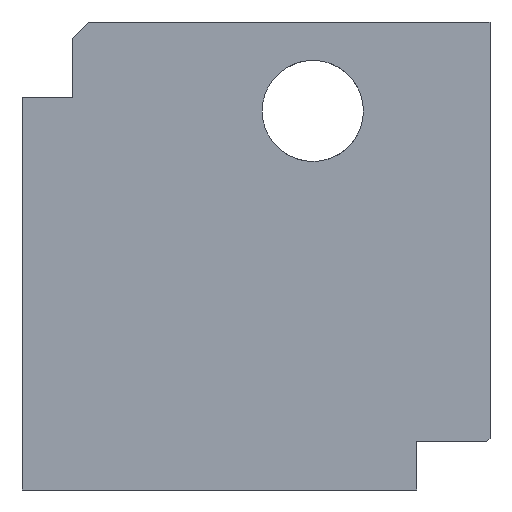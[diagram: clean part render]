
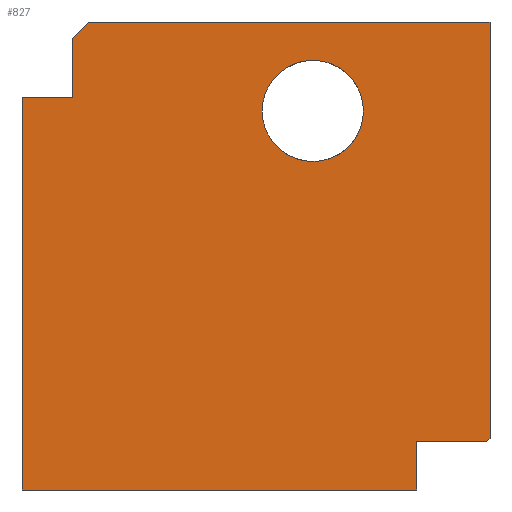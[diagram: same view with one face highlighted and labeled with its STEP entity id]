
A CAD part, front view. The second image highlights one B-rep face of the part: STEP entity #827.
In plain terms, the highlighted planar face has unit normal (0, -1, 0).
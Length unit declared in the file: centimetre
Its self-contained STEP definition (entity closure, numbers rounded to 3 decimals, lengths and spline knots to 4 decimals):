
#7 = LINE ( 'NONE', #1971, #2000 ) ;
#76 = FACE_OUTER_BOUND ( 'NONE', #824, .T. ) ;
#85 = ORIENTED_EDGE ( 'NONE', *, *, #954, .T. ) ;
#113 = EDGE_CURVE ( 'NONE', #444, #2091, #1330, .T. ) ;
#132 = CARTESIAN_POINT ( 'NONE',  ( 621.451, 0., 918.0628 ) ) ;
#166 = EDGE_CURVE ( 'NONE', #1153, #1976, #7, .T. ) ;
#178 = ORIENTED_EDGE ( 'NONE', *, *, #166, .T. ) ;
#215 = CARTESIAN_POINT ( 'NONE',  ( 843.6956, 0., 0. ) ) ;
#217 = CARTESIAN_POINT ( 'NONE',  ( 0., 0., 0. ) ) ;
#227 = VERTEX_POINT ( 'NONE', #343 ) ;
#229 = LINE ( 'NONE', #2168, #1463 ) ;
#244 = CARTESIAN_POINT ( 'NONE',  ( 107.7359, 0., 838.4858 ) ) ;
#254 = ORIENTED_EDGE ( 'NONE', *, *, #1181, .F. ) ;
#343 = CARTESIAN_POINT ( 'NONE',  ( 142.2832, 0., 1000. ) ) ;
#416 = CARTESIAN_POINT ( 'NONE',  ( 1000., 0., 1000. ) ) ;
#433 = ORIENTED_EDGE ( 'NONE', *, *, #1530, .T. ) ;
#442 = EDGE_CURVE ( 'NONE', #1644, #976, #2183, .T. ) ;
#444 = VERTEX_POINT ( 'NONE', #217 ) ;
#452 = FACE_BOUND ( 'NONE', #584, .T. ) ;
#481 = EDGE_CURVE ( 'NONE', #2211, #1419, #1696, .T. ) ;
#500 = VECTOR ( 'NONE', #1685, 100. ) ;
#503 = AXIS2_PLACEMENT_3D ( 'NONE', #2214, #1279, #567 ) ;
#554 = LINE ( 'NONE', #1266, #1501 ) ;
#567 = DIRECTION ( 'NONE',  ( 0., 0., -1. ) ) ;
#572 = ORIENTED_EDGE ( 'NONE', *, *, #442, .T. ) ;
#584 = EDGE_LOOP ( 'NONE', ( #1139, #1989 ) ) ;
#591 = DIRECTION ( 'NONE',  ( 0., -1., 0. ) ) ;
#598 = CARTESIAN_POINT ( 'NONE',  ( 993.4973, 0., 102.7327 ) ) ;
#647 = EDGE_CURVE ( 'NONE', #1419, #2211, #1993, .T. ) ;
#651 = EDGE_CURVE ( 'NONE', #976, #444, #959, .T. ) ;
#739 = CARTESIAN_POINT ( 'NONE',  ( 621.451, 0., 809.9227 ) ) ;
#745 = VERTEX_POINT ( 'NONE', #1150 ) ;
#747 = LINE ( 'NONE', #1275, #1916 ) ;
#762 = VECTOR ( 'NONE', #1880, 100. ) ;
#824 = EDGE_LOOP ( 'NONE', ( #1356, #572, #2051, #1343, #433, #85, #178, #254, #1686, #1585 ) ) ;
#827 = ADVANCED_FACE ( 'NONE', ( #452, #76 ), #1697, .F. ) ;
#858 = CARTESIAN_POINT ( 'NONE',  ( 142.2832, 0., 1000. ) ) ;
#874 = VECTOR ( 'NONE', #2246, 100. ) ;
#931 = CARTESIAN_POINT ( 'NONE',  ( 0., 0., 1000. ) ) ;
#940 = DIRECTION ( 'NONE',  ( 1., 0., 0. ) ) ;
#948 = AXIS2_PLACEMENT_3D ( 'NONE', #1342, #1186, #1849 ) ;
#954 = EDGE_CURVE ( 'NONE', #1607, #1153, #1506, .T. ) ;
#959 = LINE ( 'NONE', #931, #500 ) ;
#976 = VERTEX_POINT ( 'NONE', #2068 ) ;
#982 = CARTESIAN_POINT ( 'NONE',  ( 0., 0., 0. ) ) ;
#1028 = VECTOR ( 'NONE', #2078, 100. ) ;
#1103 = CARTESIAN_POINT ( 'NONE',  ( 621.451, 0., 701.7825 ) ) ;
#1124 = VERTEX_POINT ( 'NONE', #416 ) ;
#1139 = ORIENTED_EDGE ( 'NONE', *, *, #481, .F. ) ;
#1150 = CARTESIAN_POINT ( 'NONE',  ( 107.7359, 0., 965.4527 ) ) ;
#1153 = VERTEX_POINT ( 'NONE', #598 ) ;
#1156 = EDGE_CURVE ( 'NONE', #227, #1124, #747, .T. ) ;
#1168 = EDGE_CURVE ( 'NONE', #745, #1644, #229, .T. ) ;
#1181 = EDGE_CURVE ( 'NONE', #1124, #1976, #1994, .T. ) ;
#1186 = DIRECTION ( 'NONE',  ( 0., 1., 0. ) ) ;
#1232 = EDGE_CURVE ( 'NONE', #227, #745, #1558, .T. ) ;
#1264 = DIRECTION ( 'NONE',  ( -1., 0., 0. ) ) ;
#1266 = CARTESIAN_POINT ( 'NONE',  ( 843.6956, 0., 0. ) ) ;
#1275 = CARTESIAN_POINT ( 'NONE',  ( 0., 0., 1000. ) ) ;
#1279 = DIRECTION ( 'NONE',  ( 0., -1., 0. ) ) ;
#1304 = DIRECTION ( 'NONE',  ( 0., 0., -1. ) ) ;
#1330 = LINE ( 'NONE', #982, #762 ) ;
#1342 = CARTESIAN_POINT ( 'NONE',  ( 0., 0., 1000. ) ) ;
#1343 = ORIENTED_EDGE ( 'NONE', *, *, #113, .T. ) ;
#1356 = ORIENTED_EDGE ( 'NONE', *, *, #1168, .T. ) ;
#1390 = CARTESIAN_POINT ( 'NONE',  ( 1000., 0., 109.2354 ) ) ;
#1393 = VECTOR ( 'NONE', #1264, 100. ) ;
#1419 = VERTEX_POINT ( 'NONE', #132 ) ;
#1434 = CARTESIAN_POINT ( 'NONE',  ( 0., 0., 838.4858 ) ) ;
#1457 = CARTESIAN_POINT ( 'NONE',  ( 1000., 0., 1000. ) ) ;
#1463 = VECTOR ( 'NONE', #1470, 100. ) ;
#1470 = DIRECTION ( 'NONE',  ( 0., 0., -1. ) ) ;
#1501 = VECTOR ( 'NONE', #1984, 100. ) ;
#1506 = LINE ( 'NONE', #1874, #874 ) ;
#1530 = EDGE_CURVE ( 'NONE', #2091, #1607, #554, .T. ) ;
#1558 = LINE ( 'NONE', #858, #1028 ) ;
#1585 = ORIENTED_EDGE ( 'NONE', *, *, #1232, .T. ) ;
#1607 = VERTEX_POINT ( 'NONE', #1868 ) ;
#1644 = VERTEX_POINT ( 'NONE', #244 ) ;
#1685 = DIRECTION ( 'NONE',  ( 0., 0., -1. ) ) ;
#1686 = ORIENTED_EDGE ( 'NONE', *, *, #1156, .F. ) ;
#1696 = CIRCLE ( 'NONE', #503, 108.1401 ) ;
#1697 = PLANE ( 'NONE',  #948 ) ;
#1753 = DIRECTION ( 'NONE',  ( 0.707, 0., 0.707 ) ) ;
#1760 = AXIS2_PLACEMENT_3D ( 'NONE', #739, #591, #1304 ) ;
#1832 = DIRECTION ( 'NONE',  ( 0., 0., -1. ) ) ;
#1849 = DIRECTION ( 'NONE',  ( 0., 0., 1. ) ) ;
#1868 = CARTESIAN_POINT ( 'NONE',  ( 843.6956, 0., 102.7327 ) ) ;
#1874 = CARTESIAN_POINT ( 'NONE',  ( 843.6956, 0., 102.7327 ) ) ;
#1880 = DIRECTION ( 'NONE',  ( 1., 0., 0. ) ) ;
#1916 = VECTOR ( 'NONE', #940, 100. ) ;
#1920 = VECTOR ( 'NONE', #1832, 100. ) ;
#1971 = CARTESIAN_POINT ( 'NONE',  ( 1000., 0., 109.2354 ) ) ;
#1976 = VERTEX_POINT ( 'NONE', #1390 ) ;
#1984 = DIRECTION ( 'NONE',  ( 0., 0., 1. ) ) ;
#1989 = ORIENTED_EDGE ( 'NONE', *, *, #647, .F. ) ;
#1993 = CIRCLE ( 'NONE', #1760, 108.1401 ) ;
#1994 = LINE ( 'NONE', #1457, #1920 ) ;
#2000 = VECTOR ( 'NONE', #1753, 100. ) ;
#2051 = ORIENTED_EDGE ( 'NONE', *, *, #651, .T. ) ;
#2068 = CARTESIAN_POINT ( 'NONE',  ( 0., 0., 838.4858 ) ) ;
#2078 = DIRECTION ( 'NONE',  ( -0.707, 0., -0.707 ) ) ;
#2091 = VERTEX_POINT ( 'NONE', #215 ) ;
#2168 = CARTESIAN_POINT ( 'NONE',  ( 107.7359, 0., 838.4858 ) ) ;
#2183 = LINE ( 'NONE', #1434, #1393 ) ;
#2211 = VERTEX_POINT ( 'NONE', #1103 ) ;
#2214 = CARTESIAN_POINT ( 'NONE',  ( 621.451, 0., 809.9227 ) ) ;
#2246 = DIRECTION ( 'NONE',  ( 1., 0., 0. ) ) ;
